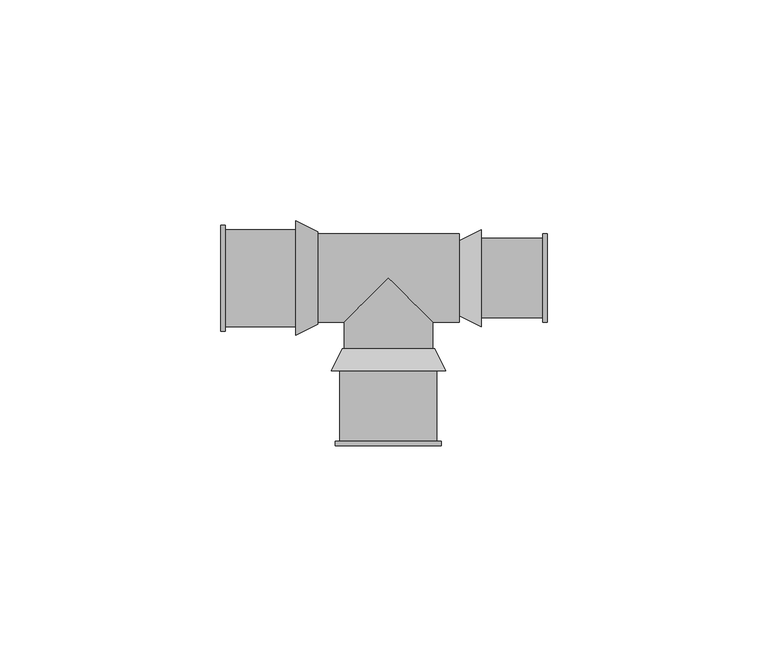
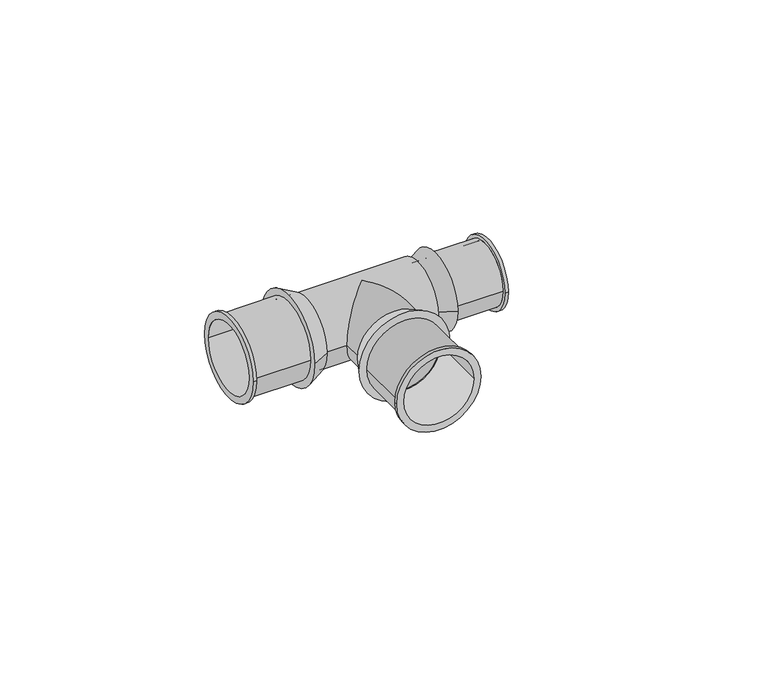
"""IFC4 building model written with IfcOpenShell, lengths in millimetres: pipe fitting geometry, SuperPipe_Tee_SPressPlus : SuperPipe_Tee_SPressPlus."""

from ifc_helpers import new_model, si_unit, point, frame, origin, origin_2d, place, context, project, spatial, polyline, circle_curve, ellipse_curve, trimmed, segment, composite_curve, outline, extrude, source, transform, mapped, element, save
from ifc_brep_helpers import plane_surface, cylinder_surface, revolved_surface, advanced_brep


def pipe_fitting_b4fce3e0(model_context):
    return source(origin(), model_context, "Body", "SolidModel", [
        advanced_brep(
        [(-38.0, -12.0, 0.0), (-38.0, 12.0, 0.0), (-38.0, -10.0, 0.0), (-38.0, 10.0, 0.0), (-21.0, -11.0, 0.0), (-21.0, 11.0, 0.0), (-21.0, -10.0, 0.0), (-21.0, 10.0, 0.0), (-37.0, -10.0, 0.0), (-37.0, 10.0, 0.0), (-37.0, 11.0, 0.0), (-37.0, -11.0, 0.0), (-37.0, -12.0, 0.0), (-37.0, 12.0, 0.0)],
        [
            (0, 1, circle_curve(frame((-38.0, 0.0, 0.0), z_axis=(-1.0, 0.0, 0.0), x_axis=(0.0, 1.0, 0.0)), 12.0)),
            (1, 0, circle_curve(frame((-38.0, 0.0, 0.0), z_axis=(-1.0, 0.0, 0.0), x_axis=(0.0, 1.0, 0.0)), 12.0)),
            (2, 3, circle_curve(frame((-38.0, 0.0, 0.0), z_axis=(1.0, 0.0, 0.0), x_axis=(0.0, 1.0, 0.0)), 10.0)),
            (3, 2, circle_curve(frame((-38.0, 0.0, 0.0), z_axis=(1.0, 0.0, 0.0), x_axis=(0.0, 1.0, 0.0)), 10.0)),
            (4, 5, circle_curve(frame((-21.0, 0.0, 0.0), z_axis=(1.0, 0.0, 0.0), x_axis=(0.0, 1.0, 0.0)), 11.0)),
            (5, 4, circle_curve(frame((-21.0, 0.0, 0.0), z_axis=(1.0, 0.0, 0.0), x_axis=(0.0, 1.0, 0.0)), 11.0)),
            (6, 7, circle_curve(frame((-21.0, 0.0, 0.0), z_axis=(-1.0, 0.0, 0.0), x_axis=(0.0, 1.0, 0.0)), 10.0)),
            (7, 6, circle_curve(frame((-21.0, 0.0, 0.0), z_axis=(-1.0, 0.0, 0.0), x_axis=(0.0, 1.0, 0.0)), 10.0)),
            (2, 8),
            (8, 6),
            (7, 9),
            (9, 3),
            (5, 10),
            (10, 11, circle_curve(frame((-37.0, 0.0, 0.0), z_axis=(1.0, 0.0, 0.0), x_axis=(0.0, 1.0, 0.0)), 11.0)),
            (11, 4),
            (11, 10, circle_curve(frame((-37.0, 0.0, 0.0), z_axis=(1.0, 0.0, 0.0), x_axis=(0.0, 1.0, 0.0)), 11.0)),
            (12, 13, circle_curve(frame((-37.0, 0.0, 0.0), z_axis=(1.0, 0.0, 0.0), x_axis=(0.0, 1.0, 0.0)), 12.0)),
            (13, 12, circle_curve(frame((-37.0, 0.0, 0.0), z_axis=(1.0, 0.0, 0.0), x_axis=(0.0, 1.0, 0.0)), 12.0)),
            (0, 12),
            (13, 1),
        ],
        [
            plane_surface(frame((-38.0, 0.0, 0.0), z_axis=(-1.0, 0.0, 0.0), x_axis=(0.0, 0.0, 1.0))),
            plane_surface(frame((-21.0, 0.0, 0.0), z_axis=(1.0, 0.0, 0.0), x_axis=(0.0, 0.0, 1.0))),
            revolved_surface(polyline([(-21.0, 10.0, 0.0), (-38.0, 10.0, 0.0)]), (-38.0, 0.0, 0.0), (1.0, 0.0, 0.0)),
            cylinder_surface(frame((-38.0, 0.0, 0.0), z_axis=(-1.0, 0.0, 0.0), x_axis=(0.0, 1.0, 0.0)), 11.0),
            plane_surface(frame((-37.0, 0.0, 0.0), z_axis=(1.0, 0.0, 0.0), x_axis=(0.0, 0.0, 1.0))),
            cylinder_surface(frame((-38.0, 0.0, 0.0), z_axis=(-1.0, 0.0, 0.0), x_axis=(0.0, 1.0, 0.0)), 12.0),
        ],
        [
            (0, [[1, 2], [3, 4]]),
            (1, [[5, 6], [7, 8]]),
            (2, [[-3, 9, 10, -8, 11, 12]]),
            (2, [[-4, -12, -11, -7, -10, -9]]),
            (3, [[-6, 13, 14, 15]]),
            (3, [[-5, -15, 16, -13]]),
            (4, [[17, 18], [-14, -16]]),
            (5, [[-1, 19, -18, 20]]),
            (5, [[-2, -20, -17, -19]]),
        ],
    ),
        advanced_brep(
        [(21.0, -9.0, 0.0), (21.0, 9.0, 0.0), (21.0, -8.0, 0.0), (21.0, 8.0, 0.0), (36.0, -10.0, 0.0), (36.0, 10.0, 0.0), (36.0, -8.0, 0.0), (36.0, 8.0, 0.0), (35.0, -9.0, 0.0), (35.0, 9.0, 0.0), (35.0, -8.0, 0.0), (35.0, 8.0, 0.0), (35.0, -10.0, 0.0), (35.0, 10.0, 0.0)],
        [
            (0, 1, circle_curve(frame((21.0, 0.0, 0.0), z_axis=(-1.0, 0.0, 0.0), x_axis=(0.0, 1.0, 0.0)), 9.0)),
            (1, 0, circle_curve(frame((21.0, 0.0, 0.0), z_axis=(-1.0, 0.0, 0.0), x_axis=(0.0, 1.0, 0.0)), 9.0)),
            (2, 3, circle_curve(frame((21.0, 0.0, 0.0), z_axis=(1.0, 0.0, 0.0), x_axis=(0.0, 1.0, 0.0)), 8.0)),
            (3, 2, circle_curve(frame((21.0, 0.0, 0.0), z_axis=(1.0, 0.0, 0.0), x_axis=(0.0, 1.0, 0.0)), 8.0)),
            (4, 5, circle_curve(frame((36.0, 0.0, 0.0), z_axis=(1.0, 0.0, 0.0), x_axis=(0.0, 1.0, 0.0)), 10.0)),
            (5, 4, circle_curve(frame((36.0, 0.0, 0.0), z_axis=(1.0, 0.0, 0.0), x_axis=(0.0, 1.0, 0.0)), 10.0)),
            (6, 7, circle_curve(frame((36.0, 0.0, 0.0), z_axis=(-1.0, 0.0, 0.0), x_axis=(0.0, 1.0, 0.0)), 8.0)),
            (7, 6, circle_curve(frame((36.0, 0.0, 0.0), z_axis=(-1.0, 0.0, 0.0), x_axis=(0.0, 1.0, 0.0)), 8.0)),
            (0, 8),
            (8, 9, circle_curve(frame((35.0, 0.0, 0.0), z_axis=(-1.0, 0.0, 0.0), x_axis=(0.0, 1.0, 0.0)), 9.0)),
            (9, 1),
            (9, 8, circle_curve(frame((35.0, 0.0, 0.0), z_axis=(-1.0, 0.0, 0.0), x_axis=(0.0, 1.0, 0.0)), 9.0)),
            (2, 10),
            (10, 6),
            (7, 11),
            (11, 3),
            (12, 13, circle_curve(frame((35.0, 0.0, 0.0), z_axis=(-1.0, 0.0, 0.0), x_axis=(0.0, 1.0, 0.0)), 10.0)),
            (13, 12, circle_curve(frame((35.0, 0.0, 0.0), z_axis=(-1.0, 0.0, 0.0), x_axis=(0.0, 1.0, 0.0)), 10.0)),
            (12, 4),
            (5, 13),
        ],
        [
            plane_surface(frame((21.0, 0.0, 0.0), z_axis=(-1.0, 0.0, 0.0), x_axis=(0.0, 0.0, 1.0))),
            plane_surface(frame((36.0, 0.0, 0.0), z_axis=(1.0, 0.0, 0.0), x_axis=(0.0, 0.0, 1.0))),
            cylinder_surface(frame((21.0, 0.0, 0.0), z_axis=(-1.0, 0.0, 0.0), x_axis=(0.0, 1.0, 0.0)), 9.0),
            revolved_surface(polyline([(36.0, 8.0, 0.0), (21.0, 8.0, 0.0)]), (21.0, 0.0, 0.0), (1.0, 0.0, 0.0)),
            plane_surface(frame((35.0, 0.0, 0.0), z_axis=(-1.0, 0.0, 0.0), x_axis=(0.0, 0.0, 1.0))),
            cylinder_surface(frame((35.0, 0.0, 0.0), z_axis=(-1.0, 0.0, 0.0), x_axis=(0.0, 1.0, 0.0)), 10.0),
        ],
        [
            (0, [[1, 2], [3, 4]]),
            (1, [[5, 6], [7, 8]]),
            (2, [[-1, 9, 10, 11]]),
            (2, [[-2, -11, 12, -9]]),
            (3, [[-3, 13, 14, -8, 15, 16]]),
            (3, [[-4, -16, -15, -7, -14, -13]]),
            (4, [[17, 18], [-10, -12]]),
            (5, [[-17, 19, -6, 20]]),
            (5, [[-18, -20, -5, -19]]),
        ],
    ),
        advanced_brep(
        [(-13.0, -21.0, 0.0), (13.0, -21.0, 0.0), (-10.0, -21.0, 0.0), (10.0, -21.0, 0.0), (-10.5, -16.0, 0.0), (10.5, -16.0, 0.0), (-10.0, -17.0, 0.0), (10.0, -17.0, 0.0)],
        [
            (0, 1, circle_curve(frame((0.0, -21.0, 0.0), z_axis=(0.0, -1.0, 0.0), x_axis=(-1.0, 0.0, 0.0)), 13.0)),
            (1, 0, circle_curve(frame((0.0, -21.0, 0.0), z_axis=(0.0, -1.0, 0.0), x_axis=(1.0, 0.0, 0.0)), 13.0)),
            (2, 3, circle_curve(frame((0.0, -21.0, 0.0), z_axis=(0.0, 1.0, 0.0), x_axis=(1.0, 0.0, 0.0)), 10.0)),
            (3, 2, circle_curve(frame((0.0, -21.0, 0.0), z_axis=(0.0, 1.0, 0.0), x_axis=(1.0, 0.0, 0.0)), 10.0)),
            (4, 5, circle_curve(frame((0.0, -16.0, 0.0), z_axis=(0.0, 1.0, 0.0), x_axis=(1.0, 0.0, 0.0)), 10.5)),
            (5, 4, circle_curve(frame((0.0, -16.0, 0.0), z_axis=(0.0, 1.0, 0.0), x_axis=(-1.0, 0.0, 0.0)), 10.5)),
            (0, 4),
            (5, 1),
            (6, 7, circle_curve(frame((0.0, -17.0, 0.0), z_axis=(0.0, -1.0, 0.0), x_axis=(1.0, 0.0, 0.0)), 10.0)),
            (7, 6, circle_curve(frame((0.0, -17.0, 0.0), z_axis=(0.0, -1.0, 0.0), x_axis=(1.0, 0.0, 0.0)), 10.0)),
            (7, 3),
            (2, 6),
        ],
        [
            plane_surface(frame((0.0, -21.0, 0.0), z_axis=(0.0, -1.0, 0.0), x_axis=(0.0, 0.0, -1.0))),
            plane_surface(frame((0.0, -16.0, 0.0), z_axis=(0.0, 1.0, 0.0), x_axis=(0.0, 0.0, -1.0))),
            revolved_surface(polyline([(10.5, -16.0, 0.0), (13.0, -21.0, 0.0)]), (0.0, 5.0, 0.0), (0.0, -1.0, 0.0)),
            revolved_surface(polyline([(-10.5, -16.0, 0.0), (-13.0, -21.0, 0.0)]), (0.0, 5.0, 0.0), (0.0, -1.0, 0.0)),
            plane_surface(frame((0.0, -17.0, 0.0), z_axis=(0.0, -1.0, 0.0), x_axis=(0.0, 0.0, 1.0))),
            revolved_surface(polyline([(10.0, -17.0, 0.0), (10.0, -21.0, 0.0)]), (0.0, -17.0, 0.0), (0.0, 1.0, 0.0)),
        ],
        [
            (0, [[1, 2], [3, 4]]),
            (1, [[5, 6]]),
            (2, [[-1, 7, -6, 8]]),
            (3, [[-2, -8, -5, -7]]),
            (4, [[9, 10]]),
            (5, [[-10, 11, -3, 12]]),
            (5, [[-9, -12, -4, -11]]),
        ],
    ),
        advanced_brep(
        [(21.0, -11.0, 0.0), (21.0, 11.0, 0.0), (21.0, 8.0, 0.0), (21.0, -8.0, 0.0), (16.0, -8.5, 0.0), (16.0, 8.5, 0.0), (17.0, -8.0, 0.0), (17.0, 8.0, 0.0)],
        [
            (0, 1, circle_curve(frame((21.0, 0.0, 0.0), z_axis=(1.0, 0.0, 0.0), x_axis=(0.0, -1.0, 0.0)), 11.0)),
            (1, 0, circle_curve(frame((21.0, 0.0, 0.0), z_axis=(1.0, 0.0, 0.0), x_axis=(0.0, 1.0, 0.0)), 11.0)),
            (2, 3, circle_curve(frame((21.0, 0.0, 0.0), z_axis=(-1.0, 0.0, 0.0), x_axis=(0.0, 1.0, 0.0)), 8.0)),
            (3, 2, circle_curve(frame((21.0, 0.0, 0.0), z_axis=(-1.0, 0.0, 0.0), x_axis=(0.0, 1.0, 0.0)), 8.0)),
            (4, 5, circle_curve(frame((16.0, 0.0, 0.0), z_axis=(-1.0, 0.0, 0.0), x_axis=(0.0, 1.0, 0.0)), 8.5)),
            (5, 4, circle_curve(frame((16.0, 0.0, 0.0), z_axis=(-1.0, 0.0, 0.0), x_axis=(0.0, -1.0, 0.0)), 8.5)),
            (0, 4),
            (5, 1),
            (6, 7, circle_curve(frame((17.0, 0.0, 0.0), z_axis=(1.0, 0.0, 0.0), x_axis=(0.0, 1.0, 0.0)), 8.0)),
            (7, 6, circle_curve(frame((17.0, 0.0, 0.0), z_axis=(1.0, 0.0, 0.0), x_axis=(0.0, 1.0, 0.0)), 8.0)),
            (6, 3),
            (2, 7),
        ],
        [
            plane_surface(frame((21.0, 0.0, 0.0), z_axis=(1.0, 0.0, 0.0), x_axis=(0.0, 0.0, -1.0))),
            plane_surface(frame((16.0, 0.0, 0.0), z_axis=(-1.0, 0.0, 0.0), x_axis=(0.0, 0.0, -1.0))),
            revolved_surface(polyline([(16.0, 8.5, 0.0), (21.0, 11.0, 0.0)]), (-1.0, 0.0, 0.0), (1.0, 0.0, 0.0)),
            revolved_surface(polyline([(16.0, -8.5, 0.0), (21.0, -11.0, 0.0)]), (-1.0, 0.0, 0.0), (1.0, 0.0, 0.0)),
            plane_surface(frame((17.0, 8.0, 0.0), z_axis=(1.0, 0.0, 0.0), x_axis=(0.0, 0.0, -1.0))),
            revolved_surface(polyline([(21.0, 8.0, 0.0), (17.0, 8.0, 0.0)]), (17.0, 0.0, 0.0), (1.0, 0.0, 0.0)),
        ],
        [
            (0, [[1, 2], [3, 4]]),
            (1, [[5, 6]]),
            (2, [[-1, 7, -6, 8]]),
            (3, [[-2, -8, -5, -7]]),
            (4, [[9, 10]]),
            (5, [[-9, 11, -3, 12]]),
            (5, [[-10, -12, -4, -11]]),
        ],
    ),
        advanced_brep(
        [(-16.0, -10.5, 0.0), (-16.0, 10.5, 0.0), (-21.0, -13.0, 0.0), (-21.0, 13.0, 0.0), (-21.0, -10.0, 0.0), (-21.0, 10.0, 0.0), (-17.0, -10.0, 0.0), (-17.0, 10.0, 0.0)],
        [
            (0, 1, circle_curve(frame((-16.0, 0.0, 0.0), z_axis=(1.0, 0.0, 0.0), x_axis=(0.0, -1.0, 0.0)), 10.5)),
            (1, 0, circle_curve(frame((-16.0, 0.0, 0.0), z_axis=(1.0, 0.0, 0.0), x_axis=(0.0, 1.0, 0.0)), 10.5)),
            (2, 3, circle_curve(frame((-21.0, 0.0, 0.0), z_axis=(-1.0, 0.0, 0.0), x_axis=(0.0, 1.0, 0.0)), 13.0)),
            (3, 2, circle_curve(frame((-21.0, 0.0, 0.0), z_axis=(-1.0, 0.0, 0.0), x_axis=(0.0, -1.0, 0.0)), 13.0)),
            (4, 5, circle_curve(frame((-21.0, 0.0, 0.0), z_axis=(1.0, 0.0, 0.0), x_axis=(0.0, 1.0, 0.0)), 10.0)),
            (5, 4, circle_curve(frame((-21.0, 0.0, 0.0), z_axis=(1.0, 0.0, 0.0), x_axis=(0.0, 1.0, 0.0)), 10.0)),
            (0, 2),
            (3, 1),
            (6, 7, circle_curve(frame((-17.0, 0.0, 0.0), z_axis=(-1.0, 0.0, 0.0), x_axis=(0.0, 1.0, 0.0)), 10.0)),
            (7, 6, circle_curve(frame((-17.0, 0.0, 0.0), z_axis=(-1.0, 0.0, 0.0), x_axis=(0.0, 1.0, 0.0)), 10.0)),
            (7, 5),
            (4, 6),
        ],
        [
            plane_surface(frame((-16.0, 0.0, 0.0), z_axis=(1.0, 0.0, 0.0), x_axis=(0.0, 0.0, -1.0))),
            plane_surface(frame((-21.0, 0.0, 0.0), z_axis=(-1.0, 0.0, 0.0), x_axis=(0.0, 0.0, -1.0))),
            revolved_surface(polyline([(-16.0, -10.5, 0.0), (-21.0, -13.0, 0.0)]), (5.0, 0.0, 0.0), (-1.0, 0.0, 0.0)),
            revolved_surface(polyline([(-16.0, 10.5, 0.0), (-21.0, 13.0, 0.0)]), (5.0, 0.0, 0.0), (-1.0, 0.0, 0.0)),
            plane_surface(frame((-17.0, 10.0, 0.0), z_axis=(-1.0, 0.0, 0.0), x_axis=(0.0, 0.0, 1.0))),
            revolved_surface(polyline([(-17.0, 10.0, 0.0), (-21.0, 10.0, 0.0)]), (-21.0, 0.0, 0.0), (1.0, 0.0, 0.0)),
        ],
        [
            (0, [[1, 2]]),
            (1, [[3, 4], [5, 6]]),
            (2, [[-1, 7, -4, 8]]),
            (3, [[-2, -8, -3, -7]]),
            (4, [[9, 10]]),
            (5, [[-10, 11, -5, 12]]),
            (5, [[-9, -12, -6, -11]]),
        ],
    ),
        advanced_brep(
        [(-10.0, -16.0, 0.0), (10.0, -16.0, 0.0), (10.0, -10.0, 0.0), (0.0, 0.0, 10.0), (-10.0, -10.0, 0.0), (0.0, 0.0, -10.0)],
        [
            (0, 1, circle_curve(frame((0.0, -16.0, 0.0), z_axis=(0.0, -1.0, 0.0), x_axis=(1.0, 0.0, 0.0)), 10.0)),
            (1, 0, circle_curve(frame((0.0, -16.0, 0.0), z_axis=(0.0, -1.0, 0.0), x_axis=(1.0, 0.0, 0.0)), 10.0)),
            (1, 2),
            (2, 3, ellipse_curve(frame((0.0, 0.0, 0.0), z_axis=(-0.7071067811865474, -0.7071067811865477, 0.0), x_axis=(-0.7071067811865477, 0.7071067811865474, 0.0)), 14.1421356, 10.0)),
            (3, 4, ellipse_curve(frame((0.0, 0.0, 0.0), z_axis=(0.7071067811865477, -0.7071067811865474, 0.0), x_axis=(0.7071067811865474, 0.7071067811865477, 0.0)), 14.1421356, 10.0)),
            (4, 0),
            (4, 5, ellipse_curve(frame((0.0, 0.0, 0.0), z_axis=(0.7071067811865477, -0.7071067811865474, 0.0), x_axis=(0.7071067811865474, 0.7071067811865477, 0.0)), 14.1421356, 10.0)),
            (5, 2, ellipse_curve(frame((0.0, 0.0, 0.0), z_axis=(-0.7071067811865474, -0.7071067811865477, 0.0), x_axis=(-0.7071067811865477, 0.7071067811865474, 0.0)), 14.1421356, 10.0)),
            (2, 4),
        ],
        [
            plane_surface(frame((0.0, -16.0, 0.0), z_axis=(0.0, -1.0, 0.0), x_axis=(0.0, 0.0, 1.0))),
            cylinder_surface(frame((0.0, 0.0, 0.0), z_axis=(0.0, 1.0, 0.0), x_axis=(1.0, 0.0, 0.0)), 10.0),
            revolved_surface(polyline([(-10.0, 10.0, 0.0), (10.0, 10.0, 0.0)]), (-94.8358145, 0.0, 0.0), (-1.0, 0.0, 0.0)),
        ],
        [
            (0, [[1, 2]]),
            (1, [[-2, 3, 4, 5, 6]]),
            (1, [[-1, -6, 7, 8, -3]]),
            (2, [[9, -5, -4]]),
            (2, [[-9, -8, -7]]),
        ],
    ),
        advanced_brep(
        [(-11.0, -21.0, 0.0), (11.0, -21.0, 0.0), (-10.0, -21.0, 0.0), (10.0, -21.0, 0.0), (-12.0, -38.0, 0.0), (12.0, -38.0, 0.0), (-10.0, -38.0, 0.0), (10.0, -38.0, 0.0), (-11.0, -37.0, 0.0), (11.0, -37.0, 0.0), (-12.0, -37.0, 0.0), (12.0, -37.0, 0.0)],
        [
            (0, 1, circle_curve(frame((0.0, -21.0, 0.0), z_axis=(0.0, 1.0, 0.0), x_axis=(1.0, 0.0, 0.0)), 11.0)),
            (1, 0, circle_curve(frame((0.0, -21.0, 0.0), z_axis=(0.0, 1.0, 0.0), x_axis=(1.0, 0.0, 0.0)), 11.0)),
            (2, 3, circle_curve(frame((0.0, -21.0, 0.0), z_axis=(0.0, -1.0, 0.0), x_axis=(1.0, 0.0, 0.0)), 10.0)),
            (3, 2, circle_curve(frame((0.0, -21.0, 0.0), z_axis=(0.0, -1.0, 0.0), x_axis=(1.0, 0.0, 0.0)), 10.0)),
            (4, 5, circle_curve(frame((0.0, -38.0, 0.0), z_axis=(0.0, -1.0, 0.0), x_axis=(1.0, 0.0, 0.0)), 12.0)),
            (5, 4, circle_curve(frame((0.0, -38.0, 0.0), z_axis=(0.0, -1.0, 0.0), x_axis=(1.0, 0.0, 0.0)), 12.0)),
            (6, 7, circle_curve(frame((0.0, -38.0, 0.0), z_axis=(0.0, 1.0, 0.0), x_axis=(1.0, 0.0, 0.0)), 10.0)),
            (7, 6, circle_curve(frame((0.0, -38.0, 0.0), z_axis=(0.0, 1.0, 0.0), x_axis=(1.0, 0.0, 0.0)), 10.0)),
            (2, 6),
            (7, 3),
            (0, 8),
            (8, 9, circle_curve(frame((0.0, -37.0, 0.0), z_axis=(0.0, 1.0, 0.0), x_axis=(1.0, 0.0, 0.0)), 11.0)),
            (9, 1),
            (9, 8, circle_curve(frame((0.0, -37.0, 0.0), z_axis=(0.0, 1.0, 0.0), x_axis=(1.0, 0.0, 0.0)), 11.0)),
            (10, 11, circle_curve(frame((0.0, -37.0, 0.0), z_axis=(0.0, 1.0, 0.0), x_axis=(1.0, 0.0, 0.0)), 12.0)),
            (11, 10, circle_curve(frame((0.0, -37.0, 0.0), z_axis=(0.0, 1.0, 0.0), x_axis=(1.0, 0.0, 0.0)), 12.0)),
            (10, 4),
            (5, 11),
        ],
        [
            plane_surface(frame((0.0, -21.0, 0.0), z_axis=(0.0, 1.0, 0.0), x_axis=(0.0, 0.0, 1.0))),
            plane_surface(frame((0.0, -38.0, 0.0), z_axis=(0.0, -1.0, 0.0), x_axis=(0.0, 0.0, 1.0))),
            revolved_surface(polyline([(10.0, -38.0, 0.0), (10.0, -21.0, 0.0)]), (0.0, -21.0, 0.0), (0.0, -1.0, 0.0)),
            cylinder_surface(frame((0.0, -21.0, 0.0), z_axis=(0.0, 1.0, 0.0), x_axis=(1.0, 0.0, 0.0)), 11.0),
            plane_surface(frame((0.0, -37.0, 0.0), z_axis=(0.0, 1.0, 0.0), x_axis=(0.0, 0.0, 1.0))),
            cylinder_surface(frame((0.0, -37.0, 0.0), z_axis=(0.0, 1.0, 0.0), x_axis=(1.0, 0.0, 0.0)), 12.0),
        ],
        [
            (0, [[1, 2], [3, 4]]),
            (1, [[5, 6], [7, 8]]),
            (2, [[-3, 9, -8, 10]]),
            (2, [[-4, -10, -7, -9]]),
            (3, [[-1, 11, 12, 13]]),
            (3, [[-2, -13, 14, -11]]),
            (4, [[15, 16], [-12, -14]]),
            (5, [[-15, 17, -6, 18]]),
            (5, [[-16, -18, -5, -17]]),
        ],
    ),
        extrude(outline(composite_curve([segment(trimmed(circle_curve(origin_2d(), 10.0), [point((-10.0, 0.0))], [point((10.0, 0.0))], False, "CARTESIAN"), True, "CONTINUOUS"), segment(trimmed(circle_curve(origin_2d(), 10.0), [point((10.0, 0.0))], [point((-10.0, 0.0))], False, "CARTESIAN"), True, "CONTINUOUS")], self_intersect=False)), frame((-16.0, 0.0, 0.0), z_axis=(1.0, 0.0, 0.0), x_axis=(0.0, 1.0, 0.0)), (0.0, 0.0, 1.0), 32.0),
    ])


if __name__ == "__main__":
    model = new_model("IFC4")
    model_context = context("Model", 3, world=origin())
    ifc_project = project(units=[si_unit("LENGTHUNIT", "METRE", prefix="MILLI")], contexts=[model_context])
    site = spatial("IfcSite", under=ifc_project)
    building = spatial("IfcBuilding", under=site)
    placement = place(None, origin())
    pipe_fitting_shape = pipe_fitting_b4fce3e0(model_context)
    element("IfcPipeFitting", 1, ObjectType="SuperPipe_Tee_SPressPlus : SuperPipe_Tee_SPressPlus", at=placement, inside=building, context=model_context, shape_type="MappedRepresentation", body=[
        mapped(pipe_fitting_shape, transform((0.0, 0.0, 0.0), x_axis=(1.0, 0.0, 0.0), y_axis=(0.0, 1.0, 0.0), z_axis=(0.0, 0.0, 1.0))),
    ])
    save(model, "model.ifc")
